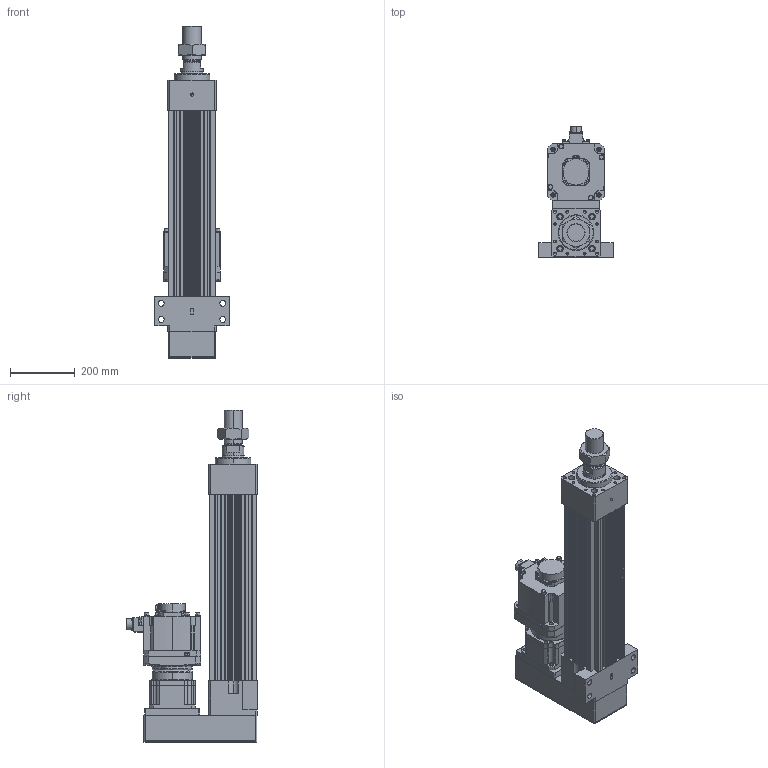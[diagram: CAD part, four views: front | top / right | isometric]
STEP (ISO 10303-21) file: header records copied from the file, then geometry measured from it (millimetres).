
FILE_DESCRIPTION (( 'STEP AP203' ), '1' );
FILE_NAME ('HES150NS(HS)-P300-W035G00-M-FFC.STEP', '2023-01-31T09:35:20', ( 'tms' ), ( '' ), 'SwSTEP 2.0', 'SolidWorks 2013', '' );
FILE_SCHEMA (( 'CONFIG_CONTROL_DESIGN' ));
Length unit declared in the file: millimetre
Products named in the file (9): M56X2.0P; HES150NS(HS)-P300-W035G00-M-FFC; HG-SR352; P1301500001; AB142-003[HG-SR352]; HES150 ROD M ST300; P0403500801; AB1421; HES150-P300-G142-FFC
Assembly tree (8 placements, depth 3):
  HES150NS(HS)-P300-W035G00-M-FFC
    HES150-P300-G142-FFC
    HES150 ROD M ST300
    M56X2.0P
    AB142-003[HG-SR352]
      AB1421
      P1301500001
      P0403500801
    HG-SR352
Bounding box: 230 x 403.85 x 1026 mm (x, y, z)
Volume: 18183028 mm3; surface area: 1758712.3 mm2
Topology: 4 solids, 18 shells, 1470 faces, 3831 edges, 2471 vertices
Faces by surface type: cylinder 693, plane 529, cone 166, bspline 76, torus 6
Entity records: 53945 total; most frequent: CARTESIAN_POINT 16549, DIRECTION 7839, ORIENTED_EDGE 7520, EDGE_CURVE 3782, AXIS2_PLACEMENT_3D 2986, VERTEX_POINT 2471, LINE 1867, VECTOR 1867
